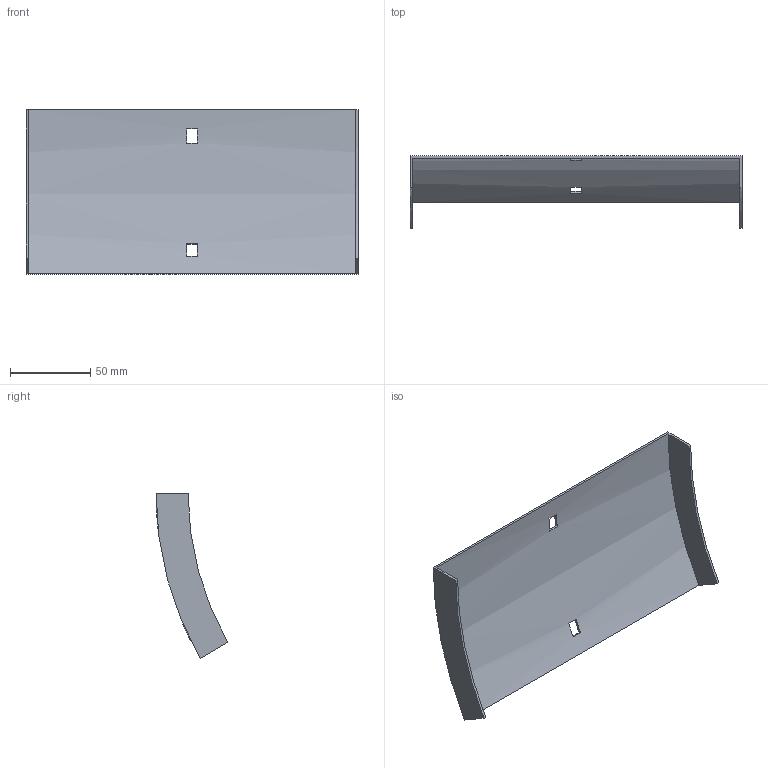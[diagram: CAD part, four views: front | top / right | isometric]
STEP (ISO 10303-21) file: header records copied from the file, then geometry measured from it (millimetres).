
FILE_DESCRIPTION (( 'STEP AP214' ), '1' );
FILE_NAME ('35N1D200.step', '2025-02-21T09:10:59', ( '' ), ( '' ), 'SwSTEP 2.0', 'SolidWorks 2023', '' );
FILE_SCHEMA (( 'AUTOMOTIVE_DESIGN' ));
Length unit declared in the file: millimetre
Products named in the file (1): 35N1D200
Bounding box: 207 x 44.85 x 102.75 mm (x, y, z)
Volume: 38771 mm3; surface area: 52812.6 mm2
Topology: 1 solids, 1 shells, 18 faces, 48 edges, 32 vertices
Faces by surface type: plane 14, cylinder 4
Entity records: 599 total; most frequent: DIRECTION 102, CARTESIAN_POINT 99, ORIENTED_EDGE 96, EDGE_CURVE 48, AXIS2_PLACEMENT_3D 35, VECTOR 32, LINE 32, VERTEX_POINT 32
